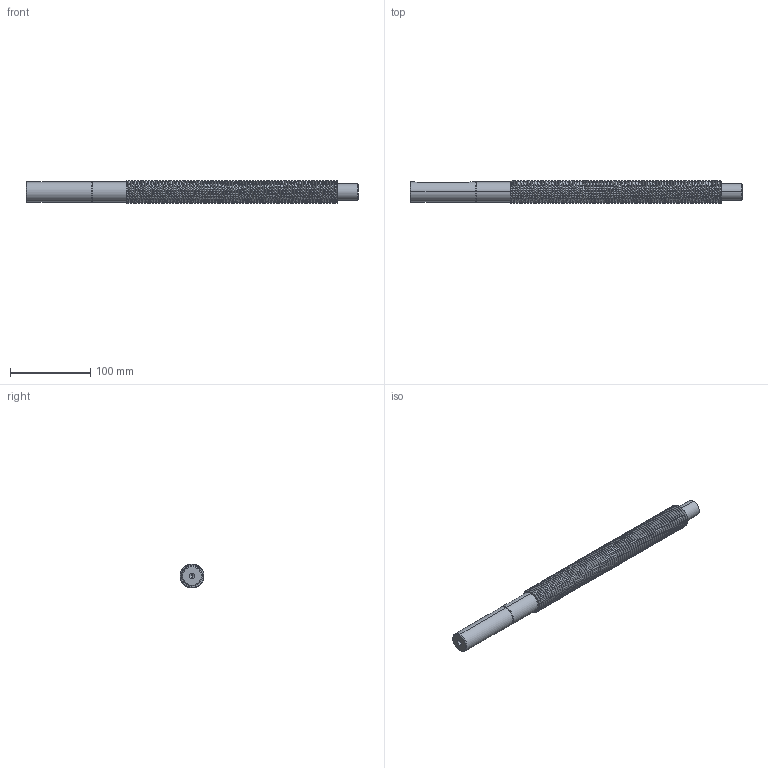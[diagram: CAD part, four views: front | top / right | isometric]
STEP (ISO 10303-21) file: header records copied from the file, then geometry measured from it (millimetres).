
FILE_DESCRIPTION (( 'STEP AP203' ), '1' );
FILE_NAME ('084.812.022.STEP', '2018-03-12T08:10:03', ( '' ), ( '' ), 'SwSTEP 2.0', 'SolidWorks 2016', '' );
FILE_SCHEMA (( 'CONFIG_CONTROL_DESIGN' ));
Products named in the file (1): 084.812.022
Bounding box: 414.5 x 29.95 x 29.95 mm (x, y, z)
Volume: 230372.7 mm3; surface area: 50017.3 mm2
Topology: 1 solids, 1 shells, 244 faces, 705 edges, 467 vertices
Faces by surface type: cylinder 180, bspline 46, plane 12, cone 6
Entity records: 96222 total; most frequent: CARTESIAN_POINT 91254, ORIENTED_EDGE 1406, EDGE_CURVE 703, DIRECTION 641, VERTEX_POINT 467, EDGE_LOOP 250, FACE_OUTER_BOUND 244, ADVANCED_FACE 244
